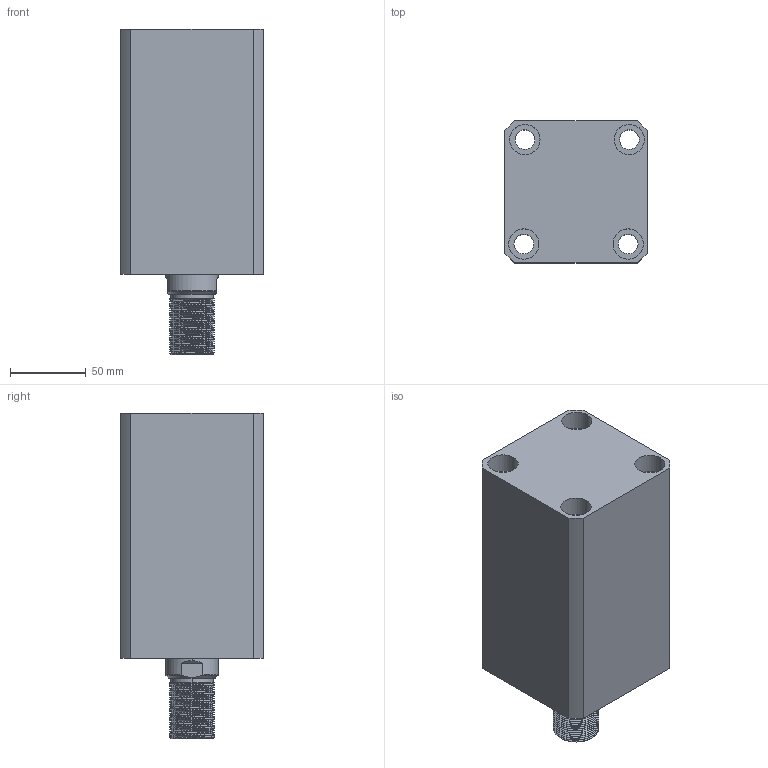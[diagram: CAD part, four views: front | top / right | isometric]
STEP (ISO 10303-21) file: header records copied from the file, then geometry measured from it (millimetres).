
FILE_DESCRIPTION (( 'STEP AP214' ), '1' );
FILE_NAME ('chtb-sdma63x95w_asm.STEP', '2018-05-18T09:45:36', ( 'Windows' ), ( 'Microsoft' ), 'SwSTEP 2.0', 'SolidWorks 2015', '' );
FILE_SCHEMA (( 'AUTOMOTIVE_DESIGN' ));
Length unit declared in the file: millimetre
Products named in the file (4): CHTB-63QG; chtb-sdma63x95w_asm; CHTB-SDMA63X95NBT; CHTB63X95WHSG
Assembly tree (3 placements, depth 2):
  chtb-sdma63x95w_asm
    CHTB-63QG
    CHTB63X95WHSG
    CHTB-SDMA63X95NBT
Bounding box: 94 x 94 x 215 mm (x, y, z)
Volume: 1144180 mm3; surface area: 188726.8 mm2
Topology: 3 solids, 3 shells, 219 faces, 632 edges, 430 vertices
Faces by surface type: cylinder 156, plane 34, bspline 14, cone 9, torus 6
Entity records: 22297 total; most frequent: CARTESIAN_POINT 17024, ORIENTED_EDGE 1256, DIRECTION 878, EDGE_CURVE 628, VERTEX_POINT 430, AXIS2_PLACEMENT_3D 343, EDGE_LOOP 252, ADVANCED_FACE 219
